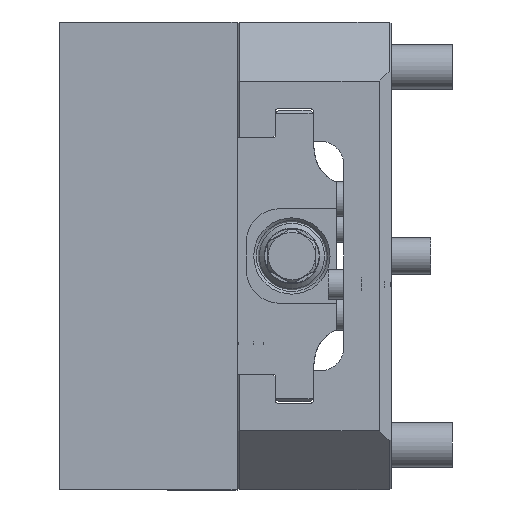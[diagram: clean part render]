
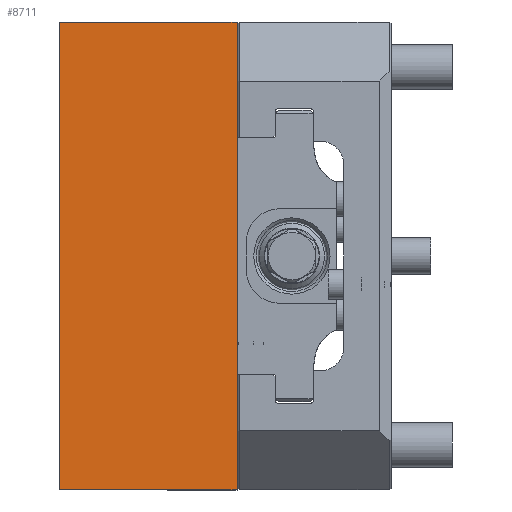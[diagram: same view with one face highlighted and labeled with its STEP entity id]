
A CAD part, left-side view. The second image highlights one B-rep face of the part: STEP entity #8711.
In plain terms, the highlighted planar face has unit normal (-1, 0, 0).
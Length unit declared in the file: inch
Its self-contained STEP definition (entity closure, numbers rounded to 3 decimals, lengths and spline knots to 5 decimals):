
#169 = CARTESIAN_POINT ( 'NONE',  ( 0., 0., 2.475 ) ) ;
#857 = DIRECTION ( 'NONE',  ( 1., 0., 0. ) ) ;
#1052 = EDGE_CURVE ( 'NONE', #3408, #2372, #15416, .T. ) ;
#1930 = CARTESIAN_POINT ( 'NONE',  ( 0., 1.875, -2.475 ) ) ;
#1997 = ORIENTED_EDGE ( 'NONE', *, *, #15390, .T. ) ;
#2298 = DIRECTION ( 'NONE',  ( 0., -1., 0. ) ) ;
#2372 = VERTEX_POINT ( 'NONE', #4338 ) ;
#3243 = CARTESIAN_POINT ( 'NONE',  ( 0., 1.875, -2.475 ) ) ;
#3408 = VERTEX_POINT ( 'NONE', #13256 ) ;
#3453 = ORIENTED_EDGE ( 'NONE', *, *, #13711, .F. ) ;
#4338 = CARTESIAN_POINT ( 'NONE',  ( 0., 0., 2.475 ) ) ;
#4781 = EDGE_CURVE ( 'NONE', #3408, #6374, #10317, .T. ) ;
#5587 = CARTESIAN_POINT ( 'NONE',  ( 0., 1.875, 2.475 ) ) ;
#5858 = DIRECTION ( 'NONE',  ( 0., 0., -1. ) ) ;
#6084 = DIRECTION ( 'NONE',  ( 0., 0., -1. ) ) ;
#6135 = ORIENTED_EDGE ( 'NONE', *, *, #4781, .T. ) ;
#6374 = VERTEX_POINT ( 'NONE', #3243 ) ;
#7451 = EDGE_LOOP ( 'NONE', ( #1997, #3453, #14529, #6135 ) ) ;
#7688 = CARTESIAN_POINT ( 'NONE',  ( 0., 0., -2.475 ) ) ;
#8711 = ADVANCED_FACE ( 'NONE', ( #18486 ), #17267, .F. ) ;
#9464 = DIRECTION ( 'NONE',  ( 0., -1., 0. ) ) ;
#10317 = LINE ( 'NONE', #17482, #14332 ) ;
#10883 = VECTOR ( 'NONE', #9464, 39.37008 ) ;
#11386 = AXIS2_PLACEMENT_3D ( 'NONE', #5587, #857, #12839 ) ;
#11625 = VERTEX_POINT ( 'NONE', #7688 ) ;
#12839 = DIRECTION ( 'NONE',  ( 0., 1., 0. ) ) ;
#13256 = CARTESIAN_POINT ( 'NONE',  ( 0., 1.875, 2.475 ) ) ;
#13711 = EDGE_CURVE ( 'NONE', #2372, #11625, #14231, .T. ) ;
#13817 = CARTESIAN_POINT ( 'NONE',  ( 0., 1.875, 2.475 ) ) ;
#14120 = VECTOR ( 'NONE', #2298, 39.37008 ) ;
#14231 = LINE ( 'NONE', #169, #15583 ) ;
#14332 = VECTOR ( 'NONE', #6084, 39.37008 ) ;
#14529 = ORIENTED_EDGE ( 'NONE', *, *, #1052, .F. ) ;
#15390 = EDGE_CURVE ( 'NONE', #6374, #11625, #18014, .T. ) ;
#15416 = LINE ( 'NONE', #13817, #10883 ) ;
#15583 = VECTOR ( 'NONE', #5858, 39.37008 ) ;
#17267 = PLANE ( 'NONE',  #11386 ) ;
#17482 = CARTESIAN_POINT ( 'NONE',  ( 0., 1.875, 2.475 ) ) ;
#18014 = LINE ( 'NONE', #1930, #14120 ) ;
#18486 = FACE_OUTER_BOUND ( 'NONE', #7451, .T. ) ;
